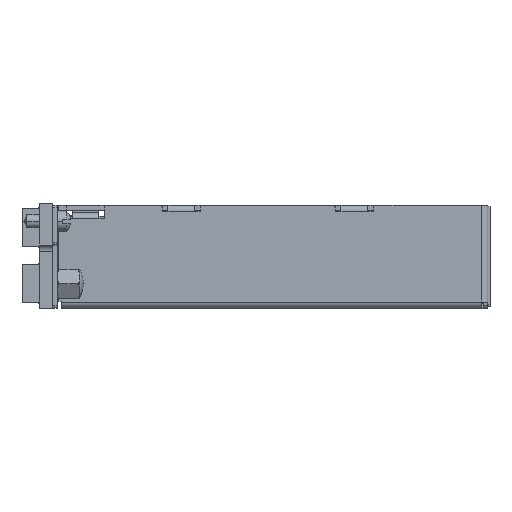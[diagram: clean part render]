
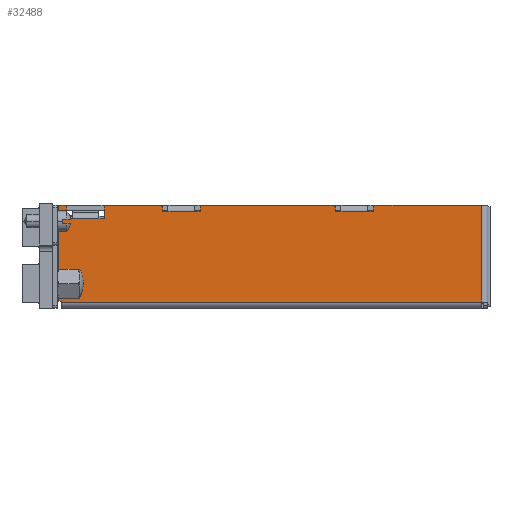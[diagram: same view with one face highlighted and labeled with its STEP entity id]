
A CAD part, front view. The second image highlights one B-rep face of the part: STEP entity #32488.
In plain terms, the highlighted planar face has unit normal (0, -1, 0).
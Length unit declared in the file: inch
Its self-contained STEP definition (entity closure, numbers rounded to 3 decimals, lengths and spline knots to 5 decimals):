
#2154=CARTESIAN_POINT('',(-3.149,0.7087,0.71099));
#2155=DIRECTION('',(0.,-1.,0.));
#2156=DIRECTION('',(1.,0.,0.));
#2157=AXIS2_PLACEMENT_3D('',#2154,#2155,#2156);
#2256=CARTESIAN_POINT('',(-2.829,0.7087,0.71099));
#2257=DIRECTION('',(0.,-1.,0.));
#2258=DIRECTION('',(0.,0.,1.));
#2259=AXIS2_PLACEMENT_3D('',#2256,#2257,#2258);
#2270=DIRECTION('',(-1.,0.,0.));
#2271=VECTOR('',#2270,0.394);
#2272=CARTESIAN_POINT('',(-2.435,0.7087,0.73099));
#2273=LINE('',#2272,#2271);
#2287=CARTESIAN_POINT('',(-2.435,0.7087,0.71099));
#2288=DIRECTION('',(0.,-1.,0.));
#2289=DIRECTION('',(1.,0.,0.));
#2290=AXIS2_PLACEMENT_3D('',#2287,#2288,#2289);
#2368=DIRECTION('',(0.,0.,-1.));
#2369=VECTOR('',#2368,0.082);
#2370=CARTESIAN_POINT('',(-3.129,0.7087,0.71099));
#2371=LINE('',#2370,#2369);
#2372=DIRECTION('',(1.,0.,0.));
#2373=VECTOR('',#2372,0.04);
#2374=CARTESIAN_POINT('',(-3.129,0.7087,0.62899));
#2375=LINE('',#2374,#2373);
#2376=DIRECTION('',(-1.,0.,0.));
#2377=VECTOR('',#2376,0.2);
#2378=CARTESIAN_POINT('',(-2.889,0.7087,0.62899));
#2379=LINE('',#2378,#2377);
#2380=DIRECTION('',(1.,0.,0.));
#2381=VECTOR('',#2380,0.04);
#2382=CARTESIAN_POINT('',(-2.889,0.7087,0.62899));
#2383=LINE('',#2382,#2381);
#2384=DIRECTION('',(0.,0.,-1.));
#2385=VECTOR('',#2384,0.082);
#2386=CARTESIAN_POINT('',(-2.849,0.7087,0.71099));
#2387=LINE('',#2386,#2385);
#2388=DIRECTION('',(0.,0.,-1.));
#2389=VECTOR('',#2388,0.026);
#2390=CARTESIAN_POINT('',(-2.415,0.7087,0.71099));
#2391=LINE('',#2390,#2389);
#2392=DIRECTION('',(-1.,0.,0.));
#2393=VECTOR('',#2392,0.04);
#2394=CARTESIAN_POINT('',(-2.375,0.7087,0.68499));
#2395=LINE('',#2394,#2393);
#2396=DIRECTION('',(-1.,0.,0.));
#2397=VECTOR('',#2396,0.2);
#2398=CARTESIAN_POINT('',(-2.175,0.7087,0.68499));
#2399=LINE('',#2398,#2397);
#2400=DIRECTION('',(-1.,0.,0.));
#2401=VECTOR('',#2400,0.04);
#2402=CARTESIAN_POINT('',(-2.135,0.7087,0.68499));
#2403=LINE('',#2402,#2401);
#2404=DIRECTION('',(0.,0.,-1.));
#2405=VECTOR('',#2404,0.026);
#2406=CARTESIAN_POINT('',(-2.135,0.7087,0.71099));
#2407=LINE('',#2406,#2405);
#2408=DIRECTION('',(0.,0.,-1.));
#2409=VECTOR('',#2408,0.026);
#2410=CARTESIAN_POINT('',(-1.125,0.7087,0.71099));
#2411=LINE('',#2410,#2409);
#2412=DIRECTION('',(1.,0.,0.));
#2413=VECTOR('',#2412,0.04);
#2414=CARTESIAN_POINT('',(-1.125,0.7087,0.68499));
#2415=LINE('',#2414,#2413);
#2416=DIRECTION('',(-1.,0.,0.));
#2417=VECTOR('',#2416,0.2);
#2418=CARTESIAN_POINT('',(-0.885,0.7087,0.68499));
#2419=LINE('',#2418,#2417);
#2420=DIRECTION('',(1.,0.,0.));
#2421=VECTOR('',#2420,0.04);
#2422=CARTESIAN_POINT('',(-0.885,0.7087,0.68499));
#2423=LINE('',#2422,#2421);
#2424=DIRECTION('',(0.,0.,-1.));
#2425=VECTOR('',#2424,0.026);
#2426=CARTESIAN_POINT('',(-0.845,0.7087,0.71099));
#2427=LINE('',#2426,#2425);
#2428=DIRECTION('',(0.,0.,1.));
#2429=VECTOR('',#2428,0.72099);
#2430=CARTESIAN_POINT('',(-0.035,0.7087,0.01));
#2431=LINE('',#2430,#2429);
#2432=DIRECTION('',(0.,0.,1.));
#2433=VECTOR('',#2432,0.00629);
#2434=CARTESIAN_POINT('',(-3.169,0.7087,0.01));
#2435=LINE('',#2434,#2433);
#2436=DIRECTION('',(-1.,0.,0.));
#2437=VECTOR('',#2436,0.02);
#2438=CARTESIAN_POINT('',(-3.169,0.7087,0.01629));
#2439=LINE('',#2438,#2437);
#2440=DIRECTION('',(0.,0.,1.));
#2441=VECTOR('',#2440,0.7147);
#2442=CARTESIAN_POINT('',(-3.189,0.7087,0.01629));
#2443=LINE('',#2442,#2441);
#2461=CARTESIAN_POINT('',(-2.115,0.7087,0.71099));
#2462=DIRECTION('',(0.,-1.,0.));
#2463=DIRECTION('',(0.,0.,1.));
#2464=AXIS2_PLACEMENT_3D('',#2461,#2462,#2463);
#2466=DIRECTION('',(-1.,0.,0.));
#2467=VECTOR('',#2466,0.97);
#2468=CARTESIAN_POINT('',(-1.145,0.7087,0.73099));
#2469=LINE('',#2468,#2467);
#2474=CARTESIAN_POINT('',(-1.145,0.7087,0.71099));
#2475=DIRECTION('',(0.,-1.,0.));
#2476=DIRECTION('',(1.,0.,0.));
#2477=AXIS2_PLACEMENT_3D('',#2474,#2475,#2476);
#2576=CARTESIAN_POINT('',(-0.825,0.7087,0.71099));
#2577=DIRECTION('',(0.,-1.,0.));
#2578=DIRECTION('',(0.,0.,1.));
#2579=AXIS2_PLACEMENT_3D('',#2576,#2577,#2578);
#2594=DIRECTION('',(-1.,0.,0.));
#2595=VECTOR('',#2594,0.79);
#2596=CARTESIAN_POINT('',(-0.035,0.7087,0.73099));
#2597=LINE('',#2596,#2595);
#3175=DIRECTION('',(-1.,0.,0.));
#3176=VECTOR('',#3175,3.134);
#3177=CARTESIAN_POINT('',(-0.035,0.7087,0.01));
#3178=LINE('',#3177,#3176);
#4100=DIRECTION('',(-1.,0.,0.));
#4101=VECTOR('',#4100,0.04);
#4102=CARTESIAN_POINT('',(-3.149,0.7087,0.73099));
#4103=LINE('',#4102,#4101);
#22252=CARTESIAN_POINT('',(-3.169,0.7087,0.01629));
#22254=VERTEX_POINT('',#22252);
#22273=CARTESIAN_POINT('',(-3.169,0.7087,0.01));
#22274=VERTEX_POINT('',#22273);
#22277=CARTESIAN_POINT('',(-3.189,0.7087,0.01629));
#22278=VERTEX_POINT('',#22277);
#22283=CARTESIAN_POINT('',(-3.189,0.7087,0.73099));
#22284=VERTEX_POINT('',#22283);
#22349=CARTESIAN_POINT('',(-0.035,0.7087,0.01));
#22350=VERTEX_POINT('',#22349);
#22355=CARTESIAN_POINT('',(-0.035,0.7087,0.73099));
#22356=VERTEX_POINT('',#22355);
#22491=CARTESIAN_POINT('',(-2.135,0.7087,0.68499));
#22493=VERTEX_POINT('',#22491);
#22495=CARTESIAN_POINT('',(-2.415,0.7087,0.68499));
#22497=VERTEX_POINT('',#22495);
#22507=CARTESIAN_POINT('',(-2.375,0.7087,0.68499));
#22508=VERTEX_POINT('',#22507);
#22509=CARTESIAN_POINT('',(-2.175,0.7087,0.68499));
#22510=VERTEX_POINT('',#22509);
#22524=CARTESIAN_POINT('',(-1.125,0.7087,0.68499));
#22526=VERTEX_POINT('',#22524);
#22528=CARTESIAN_POINT('',(-0.845,0.7087,0.68499));
#22530=VERTEX_POINT('',#22528);
#22543=CARTESIAN_POINT('',(-0.885,0.7087,0.68499));
#22544=VERTEX_POINT('',#22543);
#22545=CARTESIAN_POINT('',(-1.085,0.7087,0.68499));
#22546=VERTEX_POINT('',#22545);
#22556=CARTESIAN_POINT('',(-3.129,0.7087,0.62899));
#22558=VERTEX_POINT('',#22556);
#22560=CARTESIAN_POINT('',(-2.849,0.7087,0.62899));
#22562=VERTEX_POINT('',#22560);
#22567=CARTESIAN_POINT('',(-3.089,0.7087,0.62899));
#22568=VERTEX_POINT('',#22567);
#22569=CARTESIAN_POINT('',(-2.889,0.7087,0.62899));
#22570=VERTEX_POINT('',#22569);
#22721=CARTESIAN_POINT('',(-3.129,0.7087,0.71099));
#22723=VERTEX_POINT('',#22721);
#22725=CARTESIAN_POINT('',(-3.149,0.7087,0.73099));
#22726=VERTEX_POINT('',#22725);
#22729=CARTESIAN_POINT('',(-2.829,0.7087,0.73099));
#22731=VERTEX_POINT('',#22729);
#22733=CARTESIAN_POINT('',(-2.849,0.7087,0.71099));
#22734=VERTEX_POINT('',#22733);
#22738=CARTESIAN_POINT('',(-2.435,0.7087,0.73099));
#22740=VERTEX_POINT('',#22738);
#22743=CARTESIAN_POINT('',(-2.415,0.7087,0.71099));
#22744=VERTEX_POINT('',#22743);
#22746=CARTESIAN_POINT('',(-2.135,0.7087,0.71099));
#22748=VERTEX_POINT('',#22746);
#22751=CARTESIAN_POINT('',(-2.115,0.7087,0.73099));
#22752=VERTEX_POINT('',#22751);
#22753=CARTESIAN_POINT('',(-1.125,0.7087,0.71099));
#22755=VERTEX_POINT('',#22753);
#22757=CARTESIAN_POINT('',(-1.145,0.7087,0.73099));
#22758=VERTEX_POINT('',#22757);
#22761=CARTESIAN_POINT('',(-0.825,0.7087,0.73099));
#22763=VERTEX_POINT('',#22761);
#22765=CARTESIAN_POINT('',(-0.845,0.7087,0.71099));
#22766=VERTEX_POINT('',#22765);
#32434=CARTESIAN_POINT('',(0.,0.7087,0.73099));
#32435=DIRECTION('',(0.,1.,0.));
#32436=DIRECTION('',(-1.,0.,0.));
#32437=AXIS2_PLACEMENT_3D('',#32434,#32435,#32436);
#32438=PLANE('',#32437);
#32439=ORIENTED_EDGE('',*,*,#32060,.F.);
#32440=ORIENTED_EDGE('',*,*,#32077,.T.);
#32441=ORIENTED_EDGE('',*,*,#32089,.T.);
#32442=ORIENTED_EDGE('',*,*,#32190,.F.);
#32443=ORIENTED_EDGE('',*,*,#32231,.T.);
#32444=ORIENTED_EDGE('',*,*,#32243,.F.);
#32445=ORIENTED_EDGE('',*,*,#32257,.F.);
#32446=ORIENTED_EDGE('',*,*,#32273,.F.);
#32447=ORIENTED_EDGE('',*,*,#32287,.F.);
#32448=ORIENTED_EDGE('',*,*,#32301,.T.);
#32449=ORIENTED_EDGE('',*,*,#32313,.F.);
#32450=ORIENTED_EDGE('',*,*,#32428,.F.);
#32452=ORIENTED_EDGE('',*,*,#32451,.F.);
#32454=ORIENTED_EDGE('',*,*,#32453,.F.);
#32456=ORIENTED_EDGE('',*,*,#32455,.F.);
#32458=ORIENTED_EDGE('',*,*,#32457,.F.);
#32460=ORIENTED_EDGE('',*,*,#32459,.F.);
#32462=ORIENTED_EDGE('',*,*,#32461,.T.);
#32464=ORIENTED_EDGE('',*,*,#32463,.T.);
#32466=ORIENTED_EDGE('',*,*,#32465,.F.);
#32468=ORIENTED_EDGE('',*,*,#32467,.T.);
#32470=ORIENTED_EDGE('',*,*,#32469,.F.);
#32472=ORIENTED_EDGE('',*,*,#32471,.F.);
#32474=ORIENTED_EDGE('',*,*,#32473,.F.);
#32476=ORIENTED_EDGE('',*,*,#32475,.F.);
#32478=ORIENTED_EDGE('',*,*,#32477,.T.);
#32479=ORIENTED_EDGE('',*,*,#31982,.T.);
#32481=ORIENTED_EDGE('',*,*,#32480,.T.);
#32483=ORIENTED_EDGE('',*,*,#32482,.T.);
#32485=ORIENTED_EDGE('',*,*,#32484,.F.);
#32486=EDGE_LOOP('',(#32439,#32440,#32441,#32442,#32443,#32444,#32445,#32446,
#32447,#32448,#32449,#32450,#32452,#32454,#32456,#32458,#32460,#32462,#32464,
#32466,#32468,#32470,#32472,#32474,#32476,#32478,#32479,#32481,#32483,#32485));
#32487=FACE_OUTER_BOUND('',#32486,.F.);
#32488=ADVANCED_FACE('',(#32487),#32438,.F.);
#2158=CIRCLE('',#2157,0.02);
#2260=CIRCLE('',#2259,0.02);
#2291=CIRCLE('',#2290,0.02);
#2465=CIRCLE('',#2464,0.02);
#2478=CIRCLE('',#2477,0.02);
#2580=CIRCLE('',#2579,0.02);
#31982=EDGE_CURVE('',#22274,#22254,#2435,.T.);
#32060=EDGE_CURVE('',#22723,#22726,#2158,.T.);
#32077=EDGE_CURVE('',#22723,#22558,#2371,.T.);
#32089=EDGE_CURVE('',#22558,#22568,#2375,.T.);
#32190=EDGE_CURVE('',#22570,#22568,#2379,.T.);
#32231=EDGE_CURVE('',#22570,#22562,#2383,.T.);
#32243=EDGE_CURVE('',#22734,#22562,#2387,.T.);
#32257=EDGE_CURVE('',#22731,#22734,#2260,.T.);
#32273=EDGE_CURVE('',#22740,#22731,#2273,.T.);
#32287=EDGE_CURVE('',#22744,#22740,#2291,.T.);
#32301=EDGE_CURVE('',#22744,#22497,#2391,.T.);
#32313=EDGE_CURVE('',#22508,#22497,#2395,.T.);
#32428=EDGE_CURVE('',#22510,#22508,#2399,.T.);
#32451=EDGE_CURVE('',#22493,#22510,#2403,.T.);
#32453=EDGE_CURVE('',#22748,#22493,#2407,.T.);
#32455=EDGE_CURVE('',#22752,#22748,#2465,.T.);
#32457=EDGE_CURVE('',#22758,#22752,#2469,.T.);
#32459=EDGE_CURVE('',#22755,#22758,#2478,.T.);
#32461=EDGE_CURVE('',#22755,#22526,#2411,.T.);
#32463=EDGE_CURVE('',#22526,#22546,#2415,.T.);
#32465=EDGE_CURVE('',#22544,#22546,#2419,.T.);
#32467=EDGE_CURVE('',#22544,#22530,#2423,.T.);
#32469=EDGE_CURVE('',#22766,#22530,#2427,.T.);
#32471=EDGE_CURVE('',#22763,#22766,#2580,.T.);
#32473=EDGE_CURVE('',#22356,#22763,#2597,.T.);
#32475=EDGE_CURVE('',#22350,#22356,#2431,.T.);
#32477=EDGE_CURVE('',#22350,#22274,#3178,.T.);
#32480=EDGE_CURVE('',#22254,#22278,#2439,.T.);
#32482=EDGE_CURVE('',#22278,#22284,#2443,.T.);
#32484=EDGE_CURVE('',#22726,#22284,#4103,.T.);
